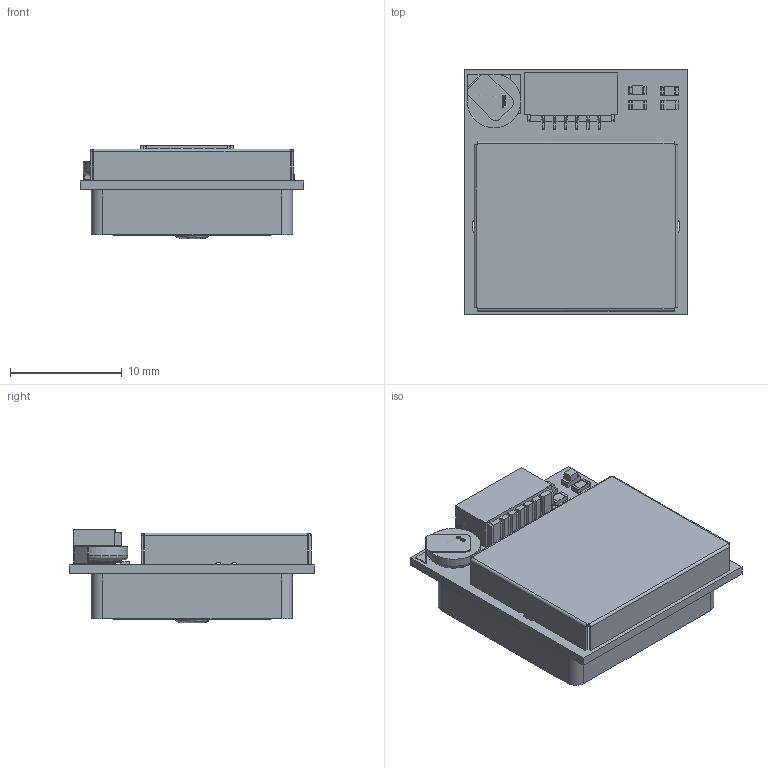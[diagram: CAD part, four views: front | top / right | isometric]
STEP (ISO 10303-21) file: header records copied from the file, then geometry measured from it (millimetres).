
FILE_DESCRIPTION(('KiCad electronic assembly'),'2;1');
FILE_NAME('E108-GN03D-V1.0.step','2024-06-14T18:49:33',('Pcbnew'),( 'Kicad'),'Open CASCADE STEP processor 7.7','KiCad to STEP converter' ,'Unknown');
FILE_SCHEMA(('AUTOMOTIVE_DESIGN { 1 0 10303 214 1 1 1 1 }'));
Length unit declared in the file: millimetre
Products named in the file (14): E108-GN03D-V1.0 1; R_0603_1608Metric; LED_0603_1608Metric; PBZ-93; 18x18x4_é¶ç·å¤©çº¿; 3D_PCB4_2024-06-14; 6Påº§; 3D_PCB4_2024-06-14-1; çµæ± ; _autosave-E108-GN03D-V1.0_PCB
Assembly tree (15 placements, depth 3):
  E108-GN03D-V1.0 1
    R_0603_1608Metric  x2
      R_0603_1608Metric
    LED_0603_1608Metric  x2
      LED_0603_1608Metric
    PBZ-93
      PBZ-93
    18x18x4_é¶ç·å¤©çº¿
      3D_PCB4_2024-06-14
    6Påº§
      3D_PCB4_2024-06-14-1
    çµæ± 
      3D_PCB4_2024-06-14
    _autosave-E108-GN03D-V1.0_PCB
Bounding box: 20 x 22 x 8.36 mm (x, y, z)
Volume: 1841.2 mm3; surface area: 3228.6 mm2
Topology: 12 solids, 17 shells, 1148 faces, 2703 edges, 1683 vertices
Faces by surface type: plane 724, bspline 286, cylinder 132, cone 4, torus 2
Full cylindrical faces by diameter (mm): 0.9 x1
Entity records: 32816 total; most frequent: CARTESIAN_POINT 9544, ORIENTED_EDGE 5000, DIRECTION 3735, EDGE_CURVE 2500, LINE 1655, VECTOR 1655, VERTEX_POINT 1553, FACE_BOUND 1177
